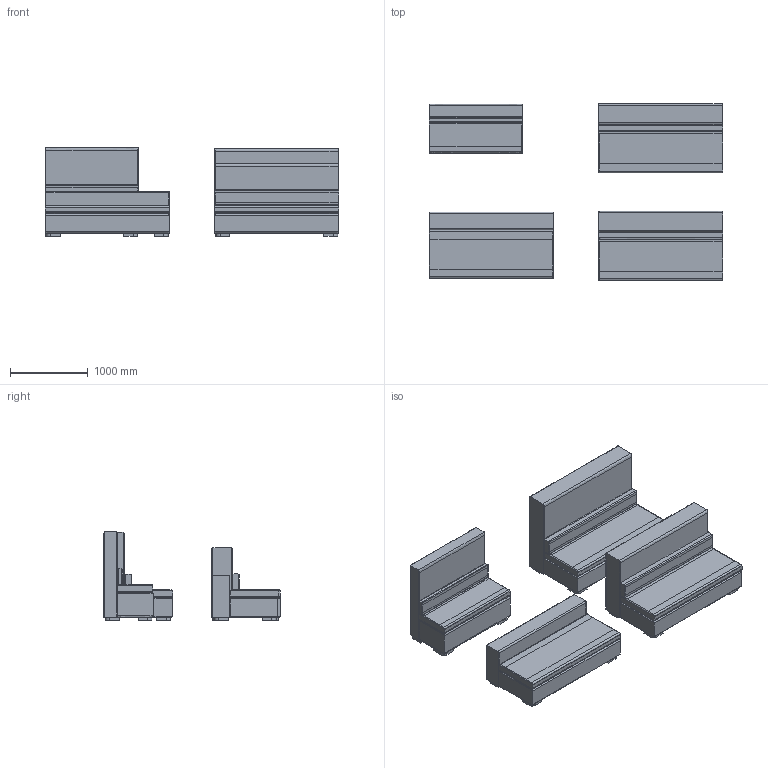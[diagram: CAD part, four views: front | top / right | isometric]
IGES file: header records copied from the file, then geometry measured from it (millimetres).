
Start section: Data from Parasolid IGES Translator,  Copyright (c) 2006 UGS Corp. All R ights Reserved.
Global section: file name: s070 unit 3d.igs; native system:  By UGS Corp.; preprocessor: XPlus GENERIC/IGES 3.0; author: Noname; organization: Noname; date: 20130523.180027; units: metre
Bounding box: 3784.76 x 2276.55 x 1143.58 mm (x, y, z)
Volume: 2647032049.7 mm3; surface area: 38791776.8 mm2
Topology: 31 solids, 31 shells, 350 faces, 864 edges, 576 vertices
Faces by surface type: plane 207, extrusion 108, cylinder 28, bspline 7
